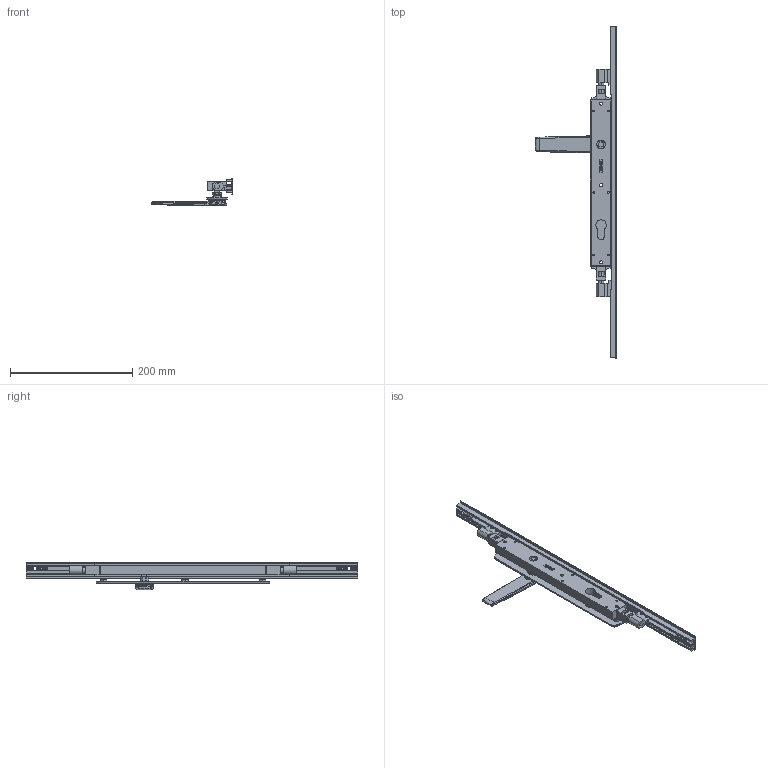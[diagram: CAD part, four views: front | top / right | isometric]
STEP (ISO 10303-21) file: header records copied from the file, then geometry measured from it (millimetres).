
FILE_DESCRIPTION (( 'STEP AP214' ), '1' );
FILE_NAME ('TPL-W-EU-610-U 06Nov2024.STEP', '2024-11-27T01:39:09', ( '' ), ( '' ), 'SwSTEP 2.0', 'SolidWorks 2023', '' );
FILE_SCHEMA (( 'AUTOMOTIVE_DESIGN' ));
Length unit declared in the file: millimetre
Products named in the file (18): Bolt.step; Copy of Copy of LKC-531 Lock twinpoint transmission rod wood system^TPL-W-EU-110 04Nov2024_Standard Range 2891.7mm; Copy of LKC-585 Rotator body zinc^Copy of TPGen2 handle non-keyed long zinc - simplified_TPL-W-EU-110 04Nov2024; TPL-W-EU-610-U 06Nov2024; Copy of Adapter CnE - simplfied^TPL-W-EU-110 04Nov2024_26mm backset; Copy of LKC-586 Spindle square 8mm with M4 hole^Copy of TPGen2 handle non-keyed long zinc - simplified_TPL-W-EU-110 04Nov2024_25mm; Copy of TPLGen2 push rod - simplified^Copy of TPLGen2 lock body keyed assembly_TPL-W-EU-110 04Nov2024_Female thread M10; Copy of TPLGen2 lock body keyed^Copy of TPLGen2 lock body keyed assembly_TPL-W-EU-110 04Nov2024; Copy of TPLGen2 lock body keyed assembly^TPL-W-EU-110 04Nov2024_Bolts retracted; Copy of Adapter DnF - simplfied^TPL-W-EU-110 04Nov2024_26mm backset; Copy of LKC-531 Lock twinpoint transmission rod wood system^TPL-W-EU-110 04Nov2024_Standard Range (588.7mm); Copy of COV-112-A Cover A suit TPLGen2 standard range^TPL-W-EU-110 04Nov2024_1335mm; Copy of LKC-505 Swing handle zinc - simplified^Copy of TPGen2 handle non-keyed long zinc - simplified_TPL-W-EU-110 04Nov2024; Copy of LKC-583 Escutcheon plate unkeyed 285mm long zinc - simplified^Copy of TPGen2 handle non-keyed long zinc - simplified_TPL-W-EU-110 04Nov2024; Copy of COV-112-C Cover C TPLGen2 Lock body^TPL-W-EU-110 04Nov2024; Copy of LKC-584 Pivot body zinc - simplified^Copy of TPGen2 handle non-keyed long zinc - simplified_TPL-W-EU-110 04Nov2024; Copy of COV-112-B Cover B suit TPLGen2 standard range^TPL-W-EU-110 04Nov2024_2870mm; Copy of TPGen2 handle non-keyed long zinc - simplified^TPL-W-EU-110 04Nov2024_Right
Assembly tree (15 placements, depth 3):
  Bolt.step
  TPL-W-EU-610-U 06Nov2024
    Copy of TPLGen2 lock body keyed assembly^TPL-W-EU-110 04Nov2024_Bolts retracted
      Copy of TPLGen2 lock body keyed^Copy of TPLGen2 lock body keyed assembly_TPL-W-EU-110 04Nov2024
      Copy of TPLGen2 push rod - simplified^Copy of TPLGen2 lock body keyed assembly_TPL-W-EU-110 04Nov2024_Female thread M10  x2
    Copy of TPGen2 handle non-keyed long zinc - simplified^TPL-W-EU-110 04Nov2024_Right
      Copy of LKC-583 Escutcheon plate unkeyed 285mm long zinc - simplified^Copy of TPGen2 handle non-keyed long zinc - simplified_TPL-W-EU-110 04Nov2024
      Copy of LKC-505 Swing handle zinc - simplified^Copy of TPGen2 handle non-keyed long zinc - simplified_TPL-W-EU-110 04Nov2024
      Copy of LKC-585 Rotator body zinc^Copy of TPGen2 handle non-keyed long zinc - simplified_TPL-W-EU-110 04Nov2024
      Copy of LKC-586 Spindle square 8mm with M4 hole^Copy of TPGen2 handle non-keyed long zinc - simplified_TPL-W-EU-110 04Nov2024_25mm
      Copy of LKC-584 Pivot body zinc - simplified^Copy of TPGen2 handle non-keyed long zinc - simplified_TPL-W-EU-110 04Nov2024
    Copy of COV-112-C Cover C TPLGen2 Lock body^TPL-W-EU-110 04Nov2024
    Copy of Copy of LKC-531 Lock twinpoint transmission rod wood system^TPL-W-EU-110 04Nov2024_Standard Range 2891.7mm
    Copy of LKC-531 Lock twinpoint transmission rod wood system^TPL-W-EU-110 04Nov2024_Standard Range (588.7mm)
    Copy of Adapter CnE - simplfied^TPL-W-EU-110 04Nov2024_26mm backset
    Copy of Adapter DnF - simplfied^TPL-W-EU-110 04Nov2024_26mm backset
  Copy of COV-112-A Cover A suit TPLGen2 standard range^TPL-W-EU-110 04Nov2024_1335mm
  Copy of COV-112-B Cover B suit TPLGen2 standard range^TPL-W-EU-110 04Nov2024_2870mm
Bounding box: 134.12 x 544 x 45.86 mm (x, y, z)
Volume: 271118.9 mm3; surface area: 136116.5 mm2
Topology: 13 solids, 13 shells, 889 faces, 2193 edges, 1364 vertices
Faces by surface type: plane 310, bspline 241, cylinder 208, cone 70, torus 52, sphere 8
Entity records: 31874 total; most frequent: CARTESIAN_POINT 12777, ORIENTED_EDGE 4194, DIRECTION 3431, EDGE_CURVE 2097, VERTEX_POINT 1304, AXIS2_PLACEMENT_3D 1260, EDGE_LOOP 949, VECTOR 911
